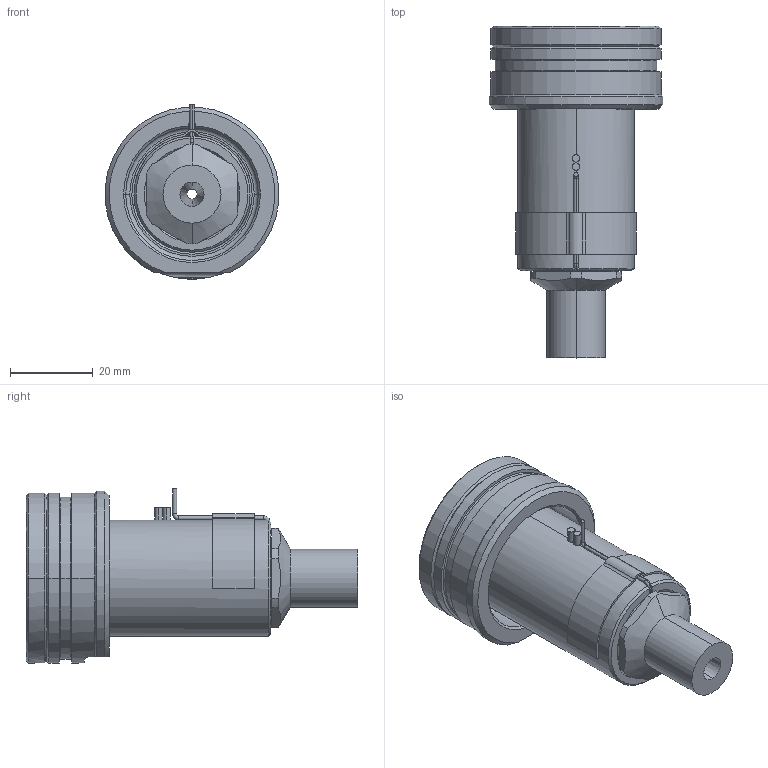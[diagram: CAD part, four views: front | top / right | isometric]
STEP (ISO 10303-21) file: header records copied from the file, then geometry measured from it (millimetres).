
FILE_DESCRIPTION((''),'2;1');
FILE_NAME('EO10_VG-ST_ESG_050_SW','2024-02-19T12:47:22',('sundharh'),(''),'CREO PARAMETRIC BY PTC INC, 2023154','CREO PARAMETRIC BY PTC INC, 2023154','');
FILE_SCHEMA(('CONFIG_CONTROL_DESIGN'));
Length unit declared in the file: millimetre
Products named in the file (1): EO10_VG-ST_ESG_050_SW
Bounding box: 41.85 x 80 x 42.02 mm (x, y, z)
Volume: 47156.7 mm3; surface area: 14718.3 mm2
Topology: 1 solids, 1 shells, 165 faces, 424 edges, 263 vertices
Faces by surface type: cylinder 63, plane 45, cone 33, torus 17, bspline 5, sphere 2
Entity records: 5727 total; most frequent: CARTESIAN_POINT 1623, DIRECTION 895, ORIENTED_EDGE 844, EDGE_CURVE 422, AXIS2_PLACEMENT_3D 369, VERTEX_POINT 263, CIRCLE 209, EDGE_LOOP 179
